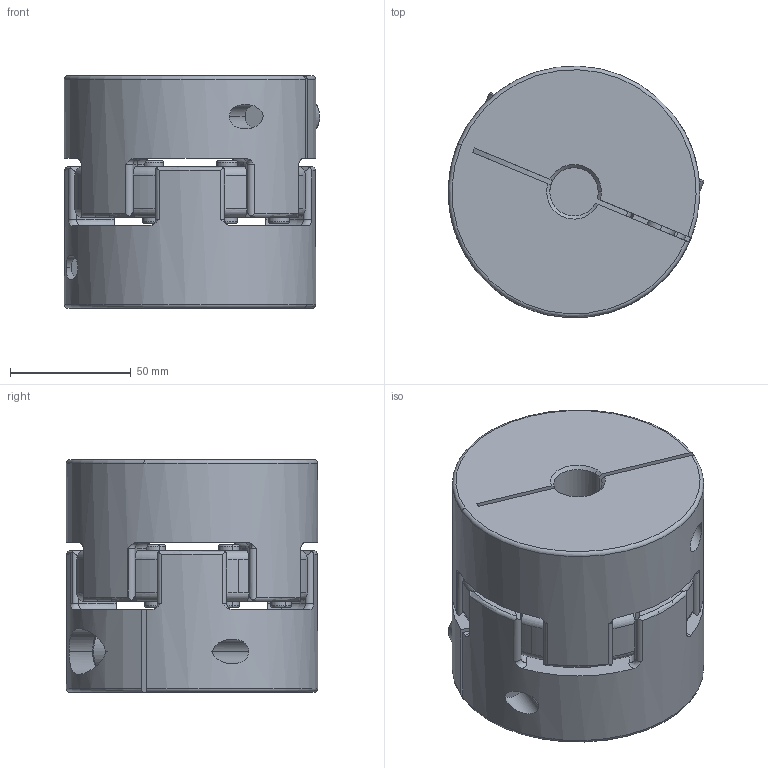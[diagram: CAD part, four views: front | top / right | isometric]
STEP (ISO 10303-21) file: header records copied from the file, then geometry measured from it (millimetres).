
FILE_DESCRIPTION (( 'STEP AP203' ), '1' );
FILE_NAME ('SJCM-100C-20X60_203.STEP', '2013-02-24T04:44:48', ( '' ), ( '' ), 'SwSTEP 2.0', 'SolidWorks 2012', '' );
FILE_SCHEMA (( 'CONFIG_CONTROL_DESIGN' ));
Length unit declared in the file: millimetre
Products named in the file (1): SJCM-100C-20X60_203
Bounding box: 105.63 x 104 x 96.2 mm (x, y, z)
Volume: 603365.1 mm3; surface area: 97135.4 mm2
Topology: 1 solids, 1 shells, 391 faces, 1090 edges, 687 vertices
Faces by surface type: cylinder 133, torus 110, cone 76, plane 72
Entity records: 14632 total; most frequent: CARTESIAN_POINT 4477, DIRECTION 2197, ORIENTED_EDGE 2172, EDGE_CURVE 1086, AXIS2_PLACEMENT_3D 959, VERTEX_POINT 687, CIRCLE 567, EDGE_LOOP 413
